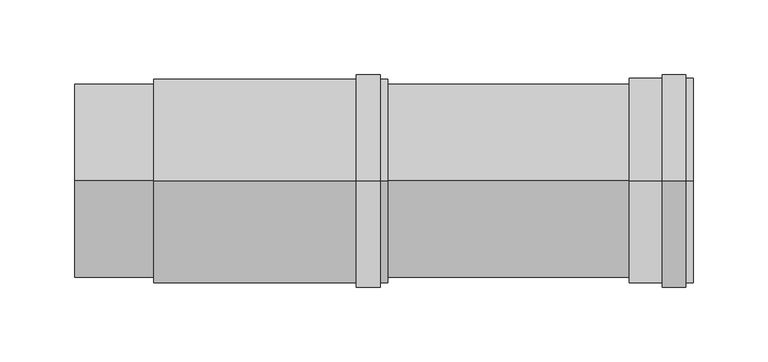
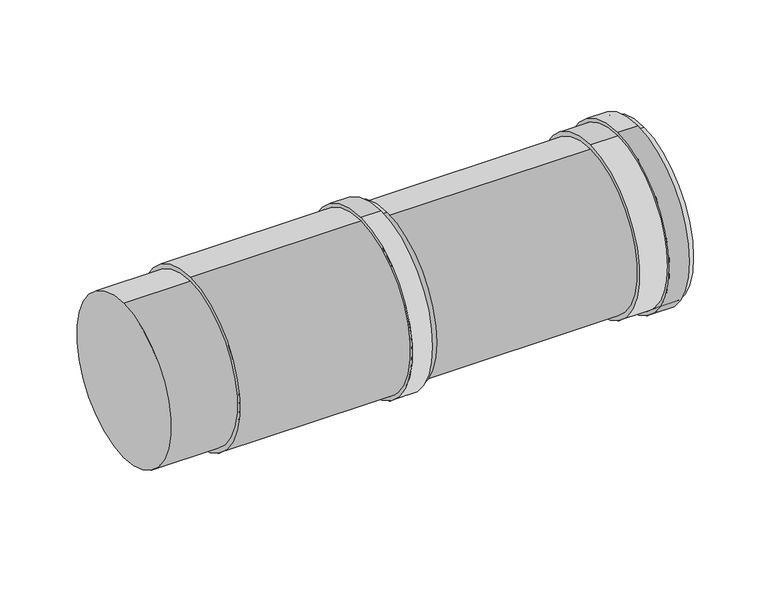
"""IFC4 building model written with IfcOpenShell, lengths in millimetres: duct fitting geometry, RSFen_DUF_UN_Twinline Adjuster_M&G : ø130-150."""

import ifcopenshell
import ifcopenshell.guid

model = None  # the IFC model being written
_history = None  # IfcOwnerHistory: only IFC2X3 demands one
_inside = {}  # id of a spatial element -> (the spatial element, [elements in it])
_under = {}  # id of a project, library or spatial element -> (it, [spatial elements below it])
_declared = {}  # id of a project -> (the project, [libraries it declares])
_typed = {}  # id of a type object -> (the type object, [elements of that type])
_made_of = {}  # id of a material, layer set ... -> (it, [elements and type objects made of it])


def new_model(schema):
    """Start an empty IFC model of exactly this schema.

    Asked for "IFC4X3", IfcOpenShell would pick the latest addendum, in which some entities
    have other attributes; the version numbers below select the first issue.
    IFC2X3 requires an IfcOwnerHistory on every rooted entity: one is made here for all.
    """
    global model, _history
    if schema == "IFC4X3":
        model = ifcopenshell.file(schema_version=(4, 3, 0, 0))
    else:
        model = ifcopenshell.file(schema=schema)
    _inside.clear()
    _under.clear()
    _declared.clear()
    _typed.clear()
    _made_of.clear()
    _history = None
    if model.schema == "IFC2X3":
        org = make("IfcOrganization", Name="unknown")
        user = make(
            "IfcPersonAndOrganization",
            ThePerson=make("IfcPerson", FamilyName="unknown"),
            TheOrganization=org,
        )
        app = make(
            "IfcApplication",
            ApplicationDeveloper=org,
            Version="unknown",
            ApplicationFullName="unknown",
            ApplicationIdentifier="unknown",
        )
        _history = make(
            "IfcOwnerHistory",
            OwningUser=user,
            OwningApplication=app,
            ChangeAction="ADDED",
            CreationDate=0,
        )
    return model


def make(cls, **values):
    """One entity of the class cls with the attributes given. An attribute that is None is left unset."""
    return model.create_entity(
        cls, **{name: value for name, value in values.items() if value is not None}
    )


def rooted(cls, **values):
    """An entity with a GlobalId (a new one), such as an element, a storey or a relation."""
    return make(cls, GlobalId=ifcopenshell.guid.new(), OwnerHistory=_history, **values)


def si_unit(unit_type, name, prefix=None):
    """IfcSIUnit, for example si_unit("LENGTHUNIT", "METRE", prefix="MILLI")."""
    return make("IfcSIUnit", UnitType=unit_type, Prefix=prefix, Name=name)


def assignment(units):
    """IfcUnitAssignment: the units of a project."""
    return None if units is None else make("IfcUnitAssignment", Units=units)


def point(xyz):
    """IfcCartesianPoint."""
    return None if xyz is None else make("IfcCartesianPoint", Coordinates=xyz)


def direction(xyz):
    """IfcDirection."""
    return None if xyz is None else make("IfcDirection", DirectionRatios=xyz)


def frame(location, z_axis=None, x_axis=None):
    """IfcAxis2Placement3D, a coordinate frame: its origin and axes. An axis left out is left unset."""
    return make(
        "IfcAxis2Placement3D",
        Location=point(location),
        Axis=direction(z_axis),
        RefDirection=direction(x_axis),
    )


def frame_2d(location, x_axis=None):
    """IfcAxis2Placement2D, a coordinate frame in the plane: its origin and x axis."""
    return make(
        "IfcAxis2Placement2D", Location=point(location), RefDirection=direction(x_axis)
    )


def origin():
    """The frame at (0, 0, 0) with its axes left unset."""
    return frame((0.0, 0.0, 0.0))


def origin_2d():
    """The frame at (0, 0) in the plane with its x axis left unset."""
    return frame_2d((0.0, 0.0))


def place(relative_to, where):
    """IfcLocalPlacement: puts the frame where relative to a parent placement (None: the world)."""
    return make(
        "IfcLocalPlacement", PlacementRelTo=relative_to, RelativePlacement=where
    )


def context(
    kind, dimensions, precision=None, world=None, true_north=None, identifier=None
):
    """IfcGeometricRepresentationContext, for example the 3D "Model" context."""
    return make(
        "IfcGeometricRepresentationContext",
        ContextIdentifier=identifier,
        ContextType=kind,
        CoordinateSpaceDimension=dimensions,
        Precision=precision,
        WorldCoordinateSystem=world,
        TrueNorth=true_north,
    )


def project(units=None, contexts=None):
    """IfcProject with its units and contexts."""
    return rooted(
        "IfcProject",
        Name="project",
        RepresentationContexts=contexts,
        UnitsInContext=assignment(units),
    )


def spatial(cls, under=None, at=None, **own):
    """A site, building, storey or space (cls), placed at a placement, below another one or the project."""
    s = rooted(cls, ObjectPlacement=at, **own)
    if under is not None:
        _under.setdefault(under.id(), (under, []))[1].append(s)
    return s


def polyline(points):
    """IfcPolyline through the points."""
    return make("IfcPolyline", Points=[point(p) for p in points])


def circle_curve(where, radius):
    """IfcCircle in the frame where."""
    return make("IfcCircle", Position=where, Radius=radius)


def trimmed(basis, trim1, trim2, sense, master):
    """IfcTrimmedCurve: the piece of a basis curve between two trims."""
    return make(
        "IfcTrimmedCurve",
        BasisCurve=basis,
        Trim1=trim1,
        Trim2=trim2,
        SenseAgreement=sense,
        MasterRepresentation=master,
    )


def segment(curve, same_sense, transition):
    """IfcCompositeCurveSegment."""
    return make(
        "IfcCompositeCurveSegment",
        Transition=transition,
        SameSense=same_sense,
        ParentCurve=curve,
    )


def composite_curve(segments, self_intersect=None):
    """IfcCompositeCurve: segments joined end to end."""
    return make("IfcCompositeCurve", Segments=segments, SelfIntersect=self_intersect)


def outline(outer, holes=None, kind="AREA"):
    """IfcArbitraryClosedProfileDef: a profile drawn as a closed curve; with holes, ...WithVoids."""
    if holes is None:
        return make("IfcArbitraryClosedProfileDef", ProfileType=kind, OuterCurve=outer)
    return make(
        "IfcArbitraryProfileDefWithVoids",
        ProfileType=kind,
        OuterCurve=outer,
        InnerCurves=holes,
    )


def extrude(swept, where, along, depth):
    """IfcExtrudedAreaSolid: the profile swept, set in the frame where, extruded along a direction by depth."""
    return make(
        "IfcExtrudedAreaSolid",
        SweptArea=swept,
        Position=where,
        ExtrudedDirection=direction(along),
        Depth=depth,
    )


def shape(context_of_items, identifier, shape_type, items):
    """IfcShapeRepresentation: the items that make up one representation, for example the "Body"."""
    return make(
        "IfcShapeRepresentation",
        ContextOfItems=context_of_items,
        RepresentationIdentifier=identifier,
        RepresentationType=shape_type,
        Items=items,
    )


def source(mapping_origin, context_of_items, identifier, shape_type, items):
    """IfcRepresentationMap: a shape defined once, which mapped items show again and again."""
    return make(
        "IfcRepresentationMap",
        MappingOrigin=mapping_origin,
        MappedRepresentation=shape(context_of_items, identifier, shape_type, items),
    )


def transform(
    local_origin,
    x_axis=None,
    y_axis=None,
    z_axis=None,
    scale=None,
    scale2=None,
    scale3=None,
    uniform=True,
):
    """IfcCartesianTransformationOperator3D, or its non-uniform kind. x_axis, y_axis, z_axis: its Axis1, 2, 3."""
    if uniform:
        return make(
            "IfcCartesianTransformationOperator3D",
            Axis1=direction(x_axis),
            Axis2=direction(y_axis),
            LocalOrigin=point(local_origin),
            Scale=scale,
            Axis3=direction(z_axis),
        )
    return make(
        "IfcCartesianTransformationOperator3DnonUniform",
        Axis1=direction(x_axis),
        Axis2=direction(y_axis),
        LocalOrigin=point(local_origin),
        Scale=scale,
        Axis3=direction(z_axis),
        Scale2=scale2,
        Scale3=scale3,
    )


def mapped(mapping_source, mapping_target):
    """IfcMappedItem: shows the shape of a source again, moved by a transform."""
    return make(
        "IfcMappedItem", MappingSource=mapping_source, MappingTarget=mapping_target
    )


def made_of(thing, what):
    """Note that an element or type object is made of a material, layer set ...; save() writes the relation."""
    if what is not None:
        _made_of.setdefault(what.id(), (what, []))[1].append(thing)
    return thing


def element(
    cls,
    number,
    at=None,
    inside=None,
    cuts=None,
    type_object=None,
    material=None,
    context=None,
    identifier="Body",
    shape_type=None,
    held_by="IfcProductDefinitionShape",
    body=None,
    shapes=None,
    **own,
):
    """One element of the class cls, such as IfcWall. Its Tag is "e" and its number.

    at: its placement. inside: the storey or other place that contains it. cuts: it is an
    opening in that element (IfcRelVoidsElement). A single representation is given by context,
    identifier, shape_type and body (its items); several are given by shapes. held_by: the class
    of the entity that holds the representations. save() writes the other relations.
    """
    e = rooted(cls, Tag="e%d" % number, ObjectPlacement=at, **own)
    if body is not None:
        shapes = [shape(context, identifier, shape_type, body)]
    if shapes is not None:
        e.Representation = make(held_by, Representations=shapes)
    if inside is not None:
        _inside.setdefault(inside.id(), (inside, []))[1].append(e)
    if cuts is not None:
        rooted(
            "IfcRelVoidsElement", RelatingBuildingElement=cuts, RelatedOpeningElement=e
        )
    if type_object is not None:
        _typed.setdefault(type_object.id(), (type_object, []))[1].append(e)
    return made_of(e, material)


def aggregate(whole, parts):
    """IfcRelAggregates: a whole, such as a stair, and the parts it consists of."""
    return rooted("IfcRelAggregates", RelatingObject=whole, RelatedObjects=parts)


def save(model, path):
    """Write the relations noted so far, then the file.

    IfcRelAggregates (storeys below a building ...), IfcRelContainedInSpatialStructure (elements
    in a storey), IfcRelDefinesByType, IfcRelAssociatesMaterial and IfcRelDeclares: one each for
    every whole, place, type object, material and project.
    """
    for whole, parts in _under.values():
        aggregate(whole, parts)
    for where, things in _inside.values():
        rooted(
            "IfcRelContainedInSpatialStructure",
            RelatedElements=things,
            RelatingStructure=where,
        )
    for kind, things in _typed.values():
        rooted("IfcRelDefinesByType", RelatedObjects=things, RelatingType=kind)
    for what, things in _made_of.values():
        rooted("IfcRelAssociatesMaterial", RelatedObjects=things, RelatingMaterial=what)
    for by, libraries in _declared.values():
        rooted("IfcRelDeclares", RelatingContext=by, RelatedDefinitions=libraries)
    model.write(path)


def plane_surface(at):
    """IfcPlane: the flat surface through the origin of the frame at, square to its z axis."""
    return make("IfcPlane", Position=at)


def cylinder_surface(at, radius):
    """IfcCylindricalSurface: all points at the distance radius from the z axis of the frame at."""
    return make("IfcCylindricalSurface", Position=at, Radius=radius)


def revolved_surface(curve, axis_point, axis_direction):
    """IfcSurfaceOfRevolution: the curve turned about the line through axis_point along axis_direction."""
    return make(
        "IfcSurfaceOfRevolution",
        SweptCurve=make("IfcArbitraryOpenProfileDef", ProfileType="CURVE", Curve=curve),
        AxisPosition=make("IfcAxis1Placement", Location=point(axis_point), Axis=direction(axis_direction)),
    )


def advanced_brep(points, edges, surfaces, faces):
    """IfcAdvancedBrep: a solid bounded by faces that lie on surfaces and meet in shared edges.

    An edge is (start, end): straight between two places in points (the first is 0);
    or (start, end, curve); or (start, end, curve, False) where it runs against its curve.
    A face is (place in surfaces, loops), or (place, loops, False) where it looks against
    its surface's normal. A loop lists edges by number (the first is 1), with a minus sign
    where the edge is run from its end to its start. The first loop is the outer one.
    """
    corners = [point(p) for p in points]
    vertices = [make("IfcVertexPoint", VertexGeometry=c) for c in corners]
    made = []
    for start, end, *more in edges:
        made.append(
            make(
                "IfcEdgeCurve",
                EdgeStart=vertices[start],
                EdgeEnd=vertices[end],
                EdgeGeometry=more[0] if more else make("IfcPolyline", Points=[corners[start], corners[end]]),
                SameSense=more[1] if len(more) > 1 else True,
            )
        )
    hull = []
    for where, loops, *sense in faces:
        bounds = []
        for j, loop in enumerate(loops):
            ring = [make("IfcOrientedEdge", EdgeElement=made[abs(k) - 1], Orientation=k > 0) for k in loop]
            bounds.append(
                make(
                    "IfcFaceOuterBound" if j == 0 else "IfcFaceBound",
                    Bound=make("IfcEdgeLoop", EdgeList=ring),
                    Orientation=True,
                )
            )
        hull.append(make("IfcAdvancedFace", Bounds=bounds, FaceSurface=surfaces[where], SameSense=sense[0] if sense else True))
    return make("IfcAdvancedBrep", Outer=make("IfcClosedShell", CfsFaces=hull))


def duct_fitting_274715c7(model_context):
    return source(origin(), model_context, "Body", "SolidModel", [
        extrude(outline(composite_curve([segment(trimmed(circle_curve(origin_2d(), 71.5), [point((0.0, -71.5))], [point((0.0, 71.5))], False, "CARTESIAN"), True, "CONTINUOUS"), segment(trimmed(circle_curve(origin_2d(), 71.5), [point((0.0, 71.5))], [point((0.0, -71.5))], False, "CARTESIAN"), True, "CONTINUOUS")], self_intersect=False), holes=[composite_curve([segment(trimmed(circle_curve(origin_2d(), 68.5), [point((0.0, 68.5))], [point((0.0, -68.5))], True, "CARTESIAN"), True, "CONTINUOUS"), segment(trimmed(circle_curve(origin_2d(), 68.5), [point((0.0, -68.5))], [point((0.0, 68.5))], True, "CARTESIAN"), True, "CONTINUOUS")], self_intersect=False)]), frame((189.0, 0.0, 0.0), z_axis=(1.0, 0.0, 0.0), x_axis=(0.0, 1.0, 0.0)), (0.0, 0.0, 1.0), 16.0),
        advanced_brep(
        [(372.0, 0.0, -65.0), (372.0, 0.0, 65.0), (0.0, 0.0, -65.0), (0.0, 0.0, 65.0), (210.0, 0.0, 65.0), (210.0, 0.0, -65.0), (53.0, 0.0, -65.0), (53.0, 0.0, 65.0), (210.0, 0.0, -68.5), (210.0, 0.0, 68.5), (53.0, 0.0, -68.5), (53.0, 0.0, 68.5)],
        [
            (0, 1, circle_curve(frame((372.0, 0.0, 0.0), z_axis=(1.0, 0.0, 0.0), x_axis=(0.0, 0.0, 1.0)), 65.0)),
            (1, 0, circle_curve(frame((372.0, 0.0, 0.0), z_axis=(1.0, 0.0, 0.0), x_axis=(0.0, 0.0, 1.0)), 65.0)),
            (2, 3, circle_curve(frame((0.0, 0.0, 0.0), z_axis=(-1.0, 0.0, 0.0), x_axis=(0.0, 0.0, 1.0)), 65.0)),
            (3, 2, circle_curve(frame((0.0, 0.0, 0.0), z_axis=(-1.0, 0.0, 0.0), x_axis=(0.0, 0.0, 1.0)), 65.0)),
            (1, 4),
            (4, 5, circle_curve(frame((210.0, 0.0, 0.0), z_axis=(1.0, 0.0, 0.0), x_axis=(0.0, 0.0, 1.0)), 65.0)),
            (5, 0),
            (2, 6),
            (6, 7, circle_curve(frame((53.0, 0.0, 0.0), z_axis=(-1.0, 0.0, 0.0), x_axis=(0.0, 0.0, 1.0)), 65.0)),
            (7, 3),
            (5, 4, circle_curve(frame((210.0, 0.0, 0.0), z_axis=(1.0, 0.0, 0.0), x_axis=(0.0, 0.0, 1.0)), 65.0)),
            (7, 6, circle_curve(frame((53.0, 0.0, 0.0), z_axis=(-1.0, 0.0, 0.0), x_axis=(0.0, 0.0, 1.0)), 65.0)),
            (8, 9, circle_curve(frame((210.0, 0.0, 0.0), z_axis=(1.0, 0.0, 0.0), x_axis=(0.0, 0.0, 1.0)), 68.5)),
            (9, 8, circle_curve(frame((210.0, 0.0, 0.0), z_axis=(1.0, 0.0, 0.0), x_axis=(0.0, 0.0, 1.0)), 68.5)),
            (10, 11, circle_curve(frame((53.0, 0.0, 0.0), z_axis=(-1.0, 0.0, 0.0), x_axis=(0.0, 0.0, 1.0)), 68.5)),
            (11, 10, circle_curve(frame((53.0, 0.0, 0.0), z_axis=(-1.0, 0.0, 0.0), x_axis=(0.0, 0.0, 1.0)), 68.5)),
            (8, 10),
            (11, 9),
        ],
        [
            plane_surface(frame((372.0, 0.0, 65.0), z_axis=(1.0, 0.0, 0.0), x_axis=(0.0, -1.0, 0.0))),
            plane_surface(frame((0.0, 0.0, 65.0), z_axis=(-1.0, 0.0, 0.0), x_axis=(0.0, 1.0, 0.0))),
            cylinder_surface(frame((372.0, 0.0, 0.0), z_axis=(-1.0, 0.0, 0.0), x_axis=(0.0, 0.0, 1.0)), 65.0),
            plane_surface(frame((210.0, 0.0, 68.5), z_axis=(1.0, 0.0, 0.0), x_axis=(0.0, -1.0, 0.0))),
            plane_surface(frame((53.0, 0.0, 68.5), z_axis=(-1.0, 0.0, 0.0), x_axis=(0.0, 1.0, 0.0))),
            cylinder_surface(frame((210.0, 0.0, 0.0), z_axis=(-1.0, 0.0, 0.0), x_axis=(0.0, 0.0, 1.0)), 68.5),
        ],
        [
            (0, [[1, 2]]),
            (1, [[3, 4]]),
            (2, [[-2, 5, 6, 7]]),
            (2, [[-3, 8, 9, 10]]),
            (2, [[-1, -7, 11, -5]]),
            (2, [[-4, -10, 12, -8]]),
            (3, [[13, 14], [-6, -11]]),
            (4, [[15, 16], [-9, -12]]),
            (5, [[-13, 17, -16, 18]]),
            (5, [[-14, -18, -15, -17]]),
        ],
    ),
        advanced_brep(
        [(372.0, 0.0, -68.5), (372.0, 0.0, 68.5), (415.0, 0.0, 68.5), (415.0, 0.0, -68.5), (375.0, 0.0, 66.0), (375.0, 0.0, -66.0), (415.0, 0.0, -66.0), (415.0, 0.0, 66.0)],
        [
            (0, 1, circle_curve(frame((372.0, 0.0, 0.0), z_axis=(-1.0, 0.0, 0.0), x_axis=(0.0, 0.0, 1.0)), 68.5)),
            (1, 0, circle_curve(frame((372.0, 0.0, 0.0), z_axis=(-1.0, 0.0, 0.0), x_axis=(0.0, 0.0, 1.0)), 68.5)),
            (2, 3, circle_curve(frame((415.0, 0.0, 0.0), z_axis=(-1.0, 0.0, 0.0), x_axis=(0.0, 0.0, 1.0)), 68.5)),
            (3, 0),
            (1, 2),
            (3, 2, circle_curve(frame((415.0, 0.0, 0.0), z_axis=(-1.0, 0.0, 0.0), x_axis=(0.0, 0.0, 1.0)), 68.5)),
            (4, 5, circle_curve(frame((375.0, 0.0, 0.0), z_axis=(-1.0, 0.0, 0.0), x_axis=(0.0, 0.0, -1.0)), 66.0)),
            (5, 6),
            (6, 7, circle_curve(frame((415.0, 0.0, 0.0), z_axis=(1.0, 0.0, 0.0), x_axis=(0.0, 0.0, -1.0)), 66.0)),
            (7, 4),
            (5, 4, circle_curve(frame((375.0, 0.0, 0.0), z_axis=(-1.0, 0.0, 0.0), x_axis=(0.0, 0.0, -1.0)), 66.0)),
            (7, 6, circle_curve(frame((415.0, 0.0, 0.0), z_axis=(1.0, 0.0, 0.0), x_axis=(0.0, 0.0, -1.0)), 66.0)),
        ],
        [
            plane_surface(frame((372.0, 0.0, 68.5), z_axis=(-1.0, 0.0, 0.0), x_axis=(0.0, 1.0, 0.0))),
            cylinder_surface(frame((372.0, 0.0, 0.0), z_axis=(1.0, 0.0, 0.0), x_axis=(0.0, 0.0, 1.0)), 68.5),
            revolved_surface(polyline([(375.0, 0.0, -66.0), (415.0, 0.0, -66.0)]), (415.0, 0.0, 0.0), (-1.0, 0.0, 0.0)),
            plane_surface(frame((415.0, 0.0, 68.5), z_axis=(1.0, 0.0, 0.0), x_axis=(0.0, -1.0, 0.0))),
            plane_surface(frame((375.0, 0.0, -66.0), z_axis=(1.0, 0.0, 0.0), x_axis=(0.0, -1.0, 0.0))),
        ],
        [
            (0, [[1, 2]]),
            (1, [[3, 4, -2, 5]]),
            (1, [[6, -5, -1, -4]]),
            (2, [[7, 8, 9, 10]]),
            (2, [[11, -10, 12, -8]]),
            (3, [[-3, -6], [-9, -12]]),
            (4, [[-11, -7]]),
        ],
    ),
        extrude(outline(composite_curve([segment(trimmed(circle_curve(origin_2d(), 71.5), [point((0.0, -71.5))], [point((0.0, 71.5))], False, "CARTESIAN"), True, "CONTINUOUS"), segment(trimmed(circle_curve(origin_2d(), 71.5), [point((0.0, 71.5))], [point((0.0, -71.5))], False, "CARTESIAN"), True, "CONTINUOUS")], self_intersect=False), holes=[composite_curve([segment(trimmed(circle_curve(origin_2d(), 68.5), [point((0.0, 68.5))], [point((0.0, -68.5))], True, "CARTESIAN"), True, "CONTINUOUS"), segment(trimmed(circle_curve(origin_2d(), 68.5), [point((0.0, -68.5))], [point((0.0, 68.5))], True, "CARTESIAN"), True, "CONTINUOUS")], self_intersect=False)]), frame((394.0, 0.0, 0.0), z_axis=(1.0, 0.0, 0.0), x_axis=(0.0, 1.0, 0.0)), (0.0, 0.0, 1.0), 16.0),
    ])


if __name__ == "__main__":
    model = new_model("IFC4")
    model_context = context("Model", 3, world=origin())
    ifc_project = project(units=[si_unit("LENGTHUNIT", "METRE", prefix="MILLI")], contexts=[model_context])
    site = spatial("IfcSite", under=ifc_project)
    building = spatial("IfcBuilding", under=site)
    placement = place(None, origin())
    duct_fitting_shape = duct_fitting_274715c7(model_context)
    element("IfcDuctFitting", 1, ObjectType="RSFen_DUF_UN_Twinline Adjuster_M&G : ø130-150", at=placement, inside=building, context=model_context, shape_type="MappedRepresentation", body=[
        mapped(duct_fitting_shape, transform((0.0, 0.0, 0.0), x_axis=(1.0, 0.0, 0.0), y_axis=(0.0, 1.0, 0.0), z_axis=(0.0, 0.0, 1.0))),
    ])
    save(model, "model.ifc")
